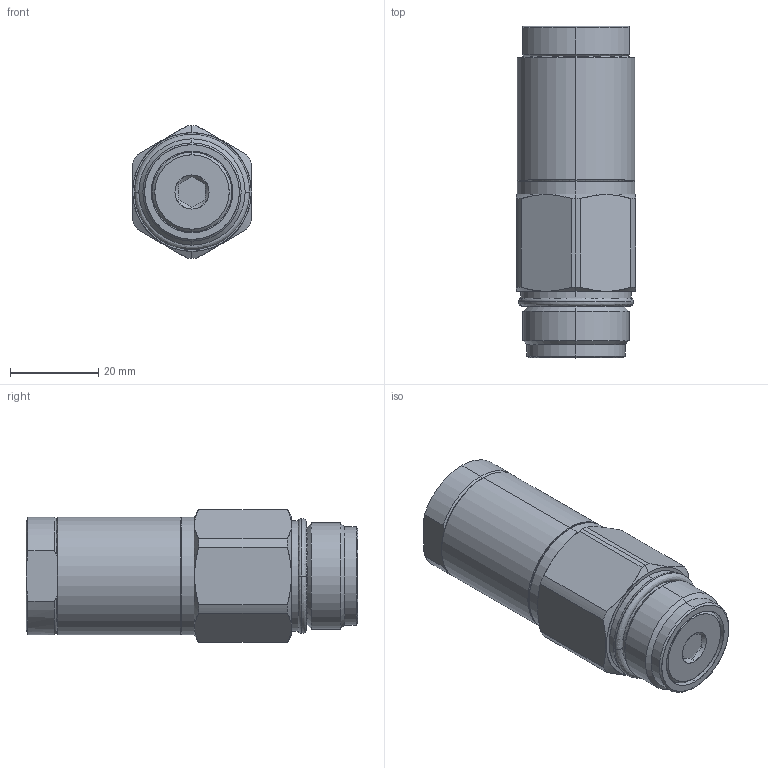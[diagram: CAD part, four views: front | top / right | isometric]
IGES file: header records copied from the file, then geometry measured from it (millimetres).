
Start section: SolidWorks IGES file using analytic representation for surfaces
Global section: file name: L:\電子カタログ-3D_IGES\JLS020-x-M0_rev1.igs; native system: SolidWorks 2009; preprocessor: SolidWorks 2009; author: D211; date: 100316.133448; units: millimetre
Bounding box: 27 x 75 x 30 mm (x, y, z)
Surface area: 9141.6 mm2 (no closed solid volume)
Topology: 0 solids, 0 shells, 84 faces, 1008 edges, 1008 vertices
Faces by surface type: revolution 51, bspline 33
